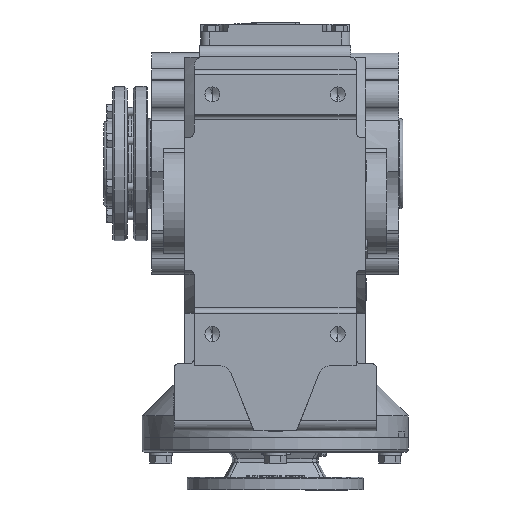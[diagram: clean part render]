
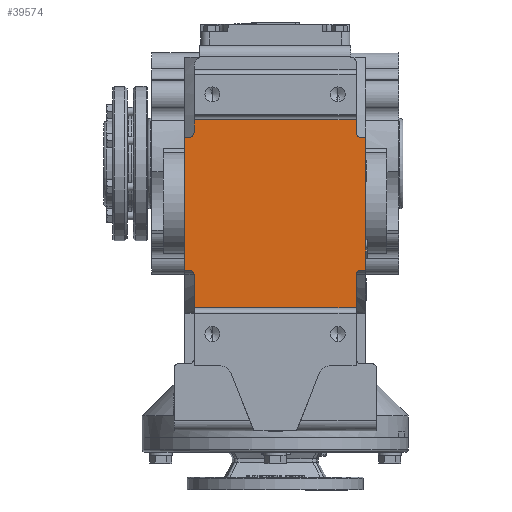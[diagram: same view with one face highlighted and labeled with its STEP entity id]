
A CAD part, front view. The second image highlights one B-rep face of the part: STEP entity #39574.
In plain terms, the highlighted planar face has unit normal (0, -1, 0).
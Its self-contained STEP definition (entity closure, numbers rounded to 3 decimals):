
#5581 = ORIENTED_EDGE ( 'NONE', *, *, #14042, .F. ) ;
#5582 = ORIENTED_EDGE ( 'NONE', *, *, #14044, .T. ) ;
#5583 = ORIENTED_EDGE ( 'NONE', *, *, #14046, .F. ) ;
#5584 = ORIENTED_EDGE ( 'NONE', *, *, #14048, .T. ) ;
#5585 = ORIENTED_EDGE ( 'NONE', *, *, #13729, .F. ) ;
#5586 = ORIENTED_EDGE ( 'NONE', *, *, #13727, .F. ) ;
#5587 = ORIENTED_EDGE ( 'NONE', *, *, #13726, .F. ) ;
#5588 = ORIENTED_EDGE ( 'NONE', *, *, #13973, .T. ) ;
#5589 = ORIENTED_EDGE ( 'NONE', *, *, #13725, .F. ) ;
#5590 = ORIENTED_EDGE ( 'NONE', *, *, #13978, .T. ) ;
#5591 = ORIENTED_EDGE ( 'NONE', *, *, #13913, .F. ) ;
#5592 = ORIENTED_EDGE ( 'NONE', *, *, #14051, .T. ) ;
#5593 = ORIENTED_EDGE ( 'NONE', *, *, #13870, .T. ) ;
#5594 = ORIENTED_EDGE ( 'NONE', *, *, #13724, .F. ) ;
#5595 = ORIENTED_EDGE ( 'NONE', *, *, #13867, .F. ) ;
#5596 = ORIENTED_EDGE ( 'NONE', *, *, #14053, .T. ) ;
#13724 = EDGE_CURVE ( 'NONE', #14418, #14417, #15386, .T. ) ;
#13725 = EDGE_CURVE ( 'NONE', #14538, #14513, #15385, .T. ) ;
#13726 = EDGE_CURVE ( 'NONE', #14521, #14281, #15389, .T. ) ;
#13727 = EDGE_CURVE ( 'NONE', #14281, #14293, #15391, .T. ) ;
#13729 = EDGE_CURVE ( 'NONE', #14293, #14620, #15395, .T. ) ;
#13867 = EDGE_CURVE ( 'NONE', #14618, #14418, #15554, .T. ) ;
#13870 = EDGE_CURVE ( 'NONE', #14617, #14417, #15561, .T. ) ;
#13913 = EDGE_CURVE ( 'NONE', #14625, #14533, #15602, .T. ) ;
#13973 = EDGE_CURVE ( 'NONE', #14521, #14513, #15694, .T. ) ;
#13978 = EDGE_CURVE ( 'NONE', #14538, #14533, #15703, .T. ) ;
#14042 = EDGE_CURVE ( 'NONE', #14615, #14636, #15774, .T. ) ;
#14044 = EDGE_CURVE ( 'NONE', #14615, #14613, #15778, .T. ) ;
#14046 = EDGE_CURVE ( 'NONE', #14614, #14613, #15781, .T. ) ;
#14048 = EDGE_CURVE ( 'NONE', #14614, #14620, #15784, .T. ) ;
#14051 = EDGE_CURVE ( 'NONE', #14625, #14617, #15789, .T. ) ;
#14053 = EDGE_CURVE ( 'NONE', #14618, #14636, #15792, .T. ) ;
#14281 = VERTEX_POINT ( 'NONE', #37722 ) ;
#14293 = VERTEX_POINT ( 'NONE', #37737 ) ;
#14417 = VERTEX_POINT ( 'NONE', #37913 ) ;
#14418 = VERTEX_POINT ( 'NONE', #37914 ) ;
#14513 = VERTEX_POINT ( 'NONE', #38049 ) ;
#14521 = VERTEX_POINT ( 'NONE', #38059 ) ;
#14533 = VERTEX_POINT ( 'NONE', #38080 ) ;
#14538 = VERTEX_POINT ( 'NONE', #38091 ) ;
#14613 = VERTEX_POINT ( 'NONE', #38247 ) ;
#14614 = VERTEX_POINT ( 'NONE', #38249 ) ;
#14615 = VERTEX_POINT ( 'NONE', #38252 ) ;
#14617 = VERTEX_POINT ( 'NONE', #38255 ) ;
#14618 = VERTEX_POINT ( 'NONE', #38258 ) ;
#14620 = VERTEX_POINT ( 'NONE', #38261 ) ;
#14625 = VERTEX_POINT ( 'NONE', #38273 ) ;
#14636 = VERTEX_POINT ( 'NONE', #38300 ) ;
#15385 = LINE ( 'NONE', #27367, #15390 ) ;
#15386 = LINE ( 'NONE', #27362, #15387 ) ;
#15387 = VECTOR ( 'NONE', #27366, 1000. ) ;
#15389 = LINE ( 'NONE', #27369, #15392 ) ;
#15390 = VECTOR ( 'NONE', #27368, 1000. ) ;
#15391 = LINE ( 'NONE', #27371, #15394 ) ;
#15392 = VECTOR ( 'NONE', #27370, 1000. ) ;
#15394 = VECTOR ( 'NONE', #27372, 1000. ) ;
#15395 = LINE ( 'NONE', #27375, #15398 ) ;
#15398 = VECTOR ( 'NONE', #27377, 1000. ) ;
#15554 = LINE ( 'NONE', #39174, #15558 ) ;
#15558 = VECTOR ( 'NONE', #39177, 1000. ) ;
#15561 = LINE ( 'NONE', #39180, #15563 ) ;
#15563 = VECTOR ( 'NONE', #39171, 1000. ) ;
#15602 = LINE ( 'NONE', #39698, #15607 ) ;
#15607 = VECTOR ( 'NONE', #39792, 1000. ) ;
#15694 = CIRCLE ( 'NONE', #36196, 5. ) ;
#15703 = LINE ( 'NONE', #40203, #15705 ) ;
#15705 = VECTOR ( 'NONE', #40205, 1000. ) ;
#15774 = LINE ( 'NONE', #40922, #15777 ) ;
#15777 = VECTOR ( 'NONE', #40926, 1000. ) ;
#15778 = LINE ( 'NONE', #40894, #15780 ) ;
#15780 = VECTOR ( 'NONE', #40899, 1000. ) ;
#15781 = LINE ( 'NONE', #40930, #15783 ) ;
#15783 = VECTOR ( 'NONE', #40935, 1000. ) ;
#15784 = CIRCLE ( 'NONE', #36268, 5. ) ;
#15789 = CIRCLE ( 'NONE', #36270, 5. ) ;
#15792 = CIRCLE ( 'NONE', #36273, 5. ) ;
#26251 = FACE_OUTER_BOUND ( 'NONE', #45130, .T. ) ;
#27362 = CARTESIAN_POINT ( 'NONE',  ( 85., -206., 7. ) ) ;
#27366 = DIRECTION ( 'NONE',  ( 0., 0., -1. ) ) ;
#27367 = CARTESIAN_POINT ( 'NONE',  ( -76., -206., -103. ) ) ;
#27368 = DIRECTION ( 'NONE',  ( 0., 0., 1. ) ) ;
#27369 = CARTESIAN_POINT ( 'NONE',  ( -76., -206., -100. ) ) ;
#27370 = DIRECTION ( 'NONE',  ( -1., 0., 0. ) ) ;
#27371 = CARTESIAN_POINT ( 'NONE',  ( -85., -206., 7. ) ) ;
#27372 = DIRECTION ( 'NONE',  ( 0., 0., 1. ) ) ;
#27375 = CARTESIAN_POINT ( 'NONE',  ( -76., -206., 24.651 ) ) ;
#27377 = DIRECTION ( 'NONE',  ( 1., 0., 0. ) ) ;
#31156 = CARTESIAN_POINT ( 'NONE',  ( -112., -206., 7. ) ) ;
#31160 = PLANE ( 'NONE',  #37242 ) ;
#31171 = DIRECTION ( 'NONE',  ( 0., -1., 0. ) ) ;
#31172 = DIRECTION ( 'NONE',  ( 0., 0., -1. ) ) ;
#36196 = AXIS2_PLACEMENT_3D ( 'NONE', #40207, #40209, #40210 ) ;
#36268 = AXIS2_PLACEMENT_3D ( 'NONE', #40981, #40984, #40986 ) ;
#36270 = AXIS2_PLACEMENT_3D ( 'NONE', #41004, #41007, #41010 ) ;
#36273 = AXIS2_PLACEMENT_3D ( 'NONE', #41022, #41024, #41026 ) ;
#37242 = AXIS2_PLACEMENT_3D ( 'NONE', #31156, #31171, #31172 ) ;
#37722 = CARTESIAN_POINT ( 'NONE',  ( -85., -206., -100. ) ) ;
#37737 = CARTESIAN_POINT ( 'NONE',  ( -85., -206., 24.651 ) ) ;
#37913 = CARTESIAN_POINT ( 'NONE',  ( 85., -206., -100. ) ) ;
#37914 = CARTESIAN_POINT ( 'NONE',  ( 85., -206., 24.651 ) ) ;
#38049 = CARTESIAN_POINT ( 'NONE',  ( -76., -206., -105. ) ) ;
#38059 = CARTESIAN_POINT ( 'NONE',  ( -81., -206., -100. ) ) ;
#38080 = CARTESIAN_POINT ( 'NONE',  ( 76., -206., -135.346 ) ) ;
#38091 = CARTESIAN_POINT ( 'NONE',  ( -76., -206., -135.346 ) ) ;
#38247 = CARTESIAN_POINT ( 'NONE',  ( -76., -206., 41. ) ) ;
#38249 = CARTESIAN_POINT ( 'NONE',  ( -76., -206., 29.651 ) ) ;
#38252 = CARTESIAN_POINT ( 'NONE',  ( 76., -206., 41. ) ) ;
#38255 = CARTESIAN_POINT ( 'NONE',  ( 81., -206., -100. ) ) ;
#38258 = CARTESIAN_POINT ( 'NONE',  ( 81., -206., 24.651 ) ) ;
#38261 = CARTESIAN_POINT ( 'NONE',  ( -81., -206., 24.651 ) ) ;
#38273 = CARTESIAN_POINT ( 'NONE',  ( 76., -206., -105. ) ) ;
#38300 = CARTESIAN_POINT ( 'NONE',  ( 76., -206., 29.651 ) ) ;
#39171 = DIRECTION ( 'NONE',  ( 1., 0., 0. ) ) ;
#39174 = CARTESIAN_POINT ( 'NONE',  ( 85., -206., 24.651 ) ) ;
#39177 = DIRECTION ( 'NONE',  ( 1., 0., 0. ) ) ;
#39180 = CARTESIAN_POINT ( 'NONE',  ( 76., -206., -100. ) ) ;
#39574 = ADVANCED_FACE ( 'NONE', ( #26251 ), #31160, .T. ) ;
#39698 = CARTESIAN_POINT ( 'NONE',  ( 76., -206., -100. ) ) ;
#39792 = DIRECTION ( 'NONE',  ( 0., 0., -1. ) ) ;
#40203 = CARTESIAN_POINT ( 'NONE',  ( -112., -206., -135.346 ) ) ;
#40205 = DIRECTION ( 'NONE',  ( 1., 0., 0. ) ) ;
#40207 = CARTESIAN_POINT ( 'NONE',  ( -81., -206., -105. ) ) ;
#40209 = DIRECTION ( 'NONE',  ( 0., 1., 0. ) ) ;
#40210 = DIRECTION ( 'NONE',  ( 0., 0., -1. ) ) ;
#40894 = CARTESIAN_POINT ( 'NONE',  ( -112., -206., 41. ) ) ;
#40899 = DIRECTION ( 'NONE',  ( -1., 0., 0. ) ) ;
#40922 = CARTESIAN_POINT ( 'NONE',  ( 76., -206., 46. ) ) ;
#40926 = DIRECTION ( 'NONE',  ( 0., 0., -1. ) ) ;
#40930 = CARTESIAN_POINT ( 'NONE',  ( -76., -206., 46. ) ) ;
#40935 = DIRECTION ( 'NONE',  ( 0., 0., 1. ) ) ;
#40981 = CARTESIAN_POINT ( 'NONE',  ( -81., -206., 29.651 ) ) ;
#40984 = DIRECTION ( 'NONE',  ( 0., 1., 0. ) ) ;
#40986 = DIRECTION ( 'NONE',  ( 0., 0., -1. ) ) ;
#41004 = CARTESIAN_POINT ( 'NONE',  ( 81., -206., -105. ) ) ;
#41007 = DIRECTION ( 'NONE',  ( 0., 1., 0. ) ) ;
#41010 = DIRECTION ( 'NONE',  ( 0., 0., -1. ) ) ;
#41022 = CARTESIAN_POINT ( 'NONE',  ( 81., -206., 29.651 ) ) ;
#41024 = DIRECTION ( 'NONE',  ( 0., 1., 0. ) ) ;
#41026 = DIRECTION ( 'NONE',  ( 0., 0., -1. ) ) ;
#45130 = EDGE_LOOP ( 'NONE', ( #5581, #5582, #5583, #5584, #5585, #5586, #5587, #5588, #5589, #5590, #5591, #5592, #5593, #5594, #5595, #5596 ) ) ;
